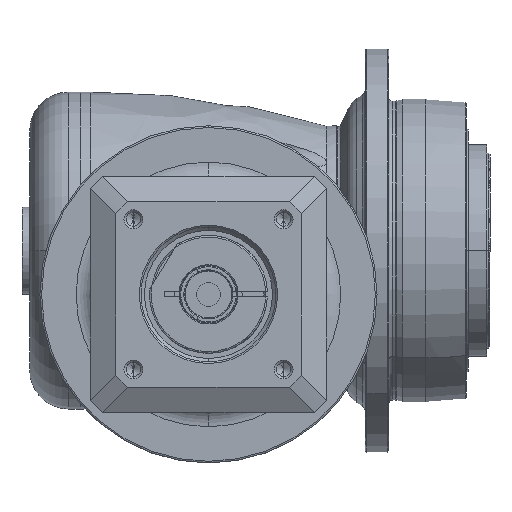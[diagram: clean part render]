
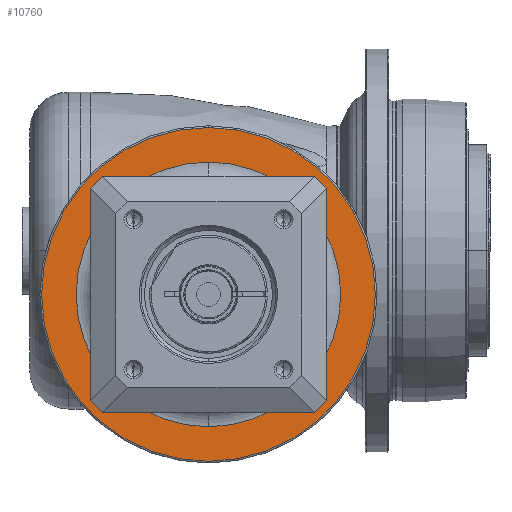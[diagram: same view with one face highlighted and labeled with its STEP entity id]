
A CAD part, front view. The second image highlights one B-rep face of the part: STEP entity #10760.
In plain terms, the highlighted planar face has unit normal (0, -1, 0) as drawn and (1, 0, 0) by its records, which use the part's own axes.
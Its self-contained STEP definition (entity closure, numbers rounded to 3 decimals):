
#9743=CARTESIAN_POINT('',(-9.,0.,0.));
#9744=DIRECTION('',(-1.,0.,0.));
#9745=DIRECTION('',(0.,-1.,0.));
#9746=AXIS2_PLACEMENT_3D('',#9743,#9744,#9745);
#9748=CARTESIAN_POINT('',(-9.,0.,0.));
#9749=DIRECTION('',(-1.,0.,0.));
#9750=DIRECTION('',(0.,1.,0.));
#9751=AXIS2_PLACEMENT_3D('',#9748,#9749,#9750);
#9753=CARTESIAN_POINT('',(-9.,0.,0.));
#9754=DIRECTION('',(-1.,0.,0.));
#9755=DIRECTION('',(0.,-1.,0.));
#9756=AXIS2_PLACEMENT_3D('',#9753,#9754,#9755);
#9758=CARTESIAN_POINT('',(-9.,0.,0.));
#9759=DIRECTION('',(-1.,0.,0.));
#9760=DIRECTION('',(0.,1.,0.));
#9761=AXIS2_PLACEMENT_3D('',#9758,#9759,#9760);
#10005=CARTESIAN_POINT('',(-9.,-49.5,0.));
#10006=CARTESIAN_POINT('',(-9.,49.5,0.));
#10007=VERTEX_POINT('',#10005);
#10008=VERTEX_POINT('',#10006);
#10063=CARTESIAN_POINT('',(-9.,-39.25,0.));
#10064=CARTESIAN_POINT('',(-9.,39.25,0.));
#10065=VERTEX_POINT('',#10063);
#10066=VERTEX_POINT('',#10064);
#10745=CARTESIAN_POINT('',(-9.,0.,0.));
#10746=DIRECTION('',(1.,0.,0.));
#10747=DIRECTION('',(0.,-1.,0.));
#10748=AXIS2_PLACEMENT_3D('',#10745,#10746,#10747);
#10749=PLANE('',#10748);
#10750=ORIENTED_EDGE('',*,*,#10677,.T.);
#10751=ORIENTED_EDGE('',*,*,#10662,.T.);
#10752=EDGE_LOOP('',(#10750,#10751));
#10753=FACE_OUTER_BOUND('',#10752,.F.);
#10755=ORIENTED_EDGE('',*,*,#10754,.F.);
#10757=ORIENTED_EDGE('',*,*,#10756,.F.);
#10758=EDGE_LOOP('',(#10755,#10757));
#10759=FACE_BOUND('',#10758,.F.);
#10760=ADVANCED_FACE('',(#10753,#10759),#10749,.T.);
#9747=CIRCLE('',#9746,39.25);
#9752=CIRCLE('',#9751,39.25);
#9757=CIRCLE('',#9756,49.5);
#9762=CIRCLE('',#9761,49.5);
#10662=EDGE_CURVE('',#10008,#10007,#9762,.T.);
#10677=EDGE_CURVE('',#10007,#10008,#9757,.T.);
#10754=EDGE_CURVE('',#10065,#10066,#9747,.T.);
#10756=EDGE_CURVE('',#10066,#10065,#9752,.T.);
